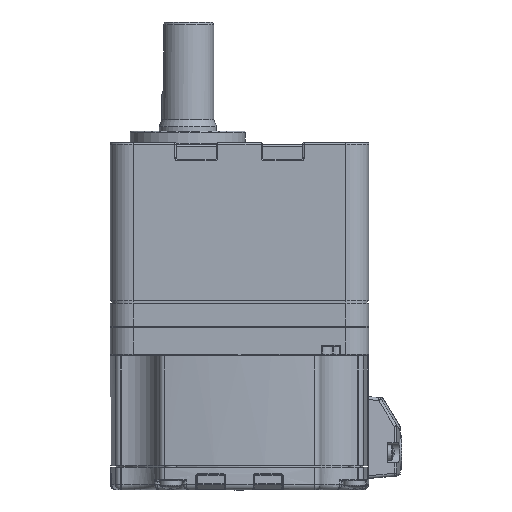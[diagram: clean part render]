
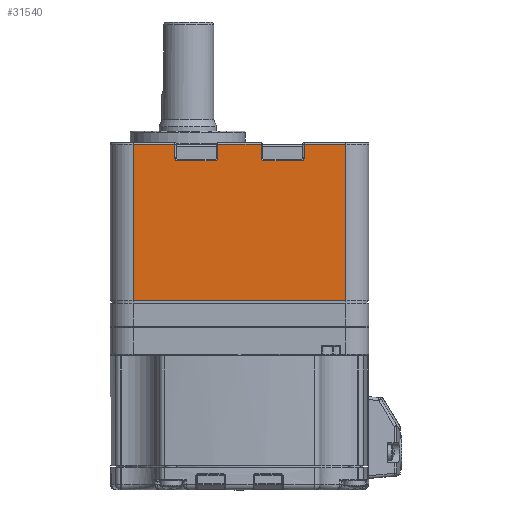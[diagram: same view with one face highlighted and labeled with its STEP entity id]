
A CAD part, left-side view. The second image highlights one B-rep face of the part: STEP entity #31540.
In plain terms, the highlighted planar face has unit normal (-1, 0, 0).
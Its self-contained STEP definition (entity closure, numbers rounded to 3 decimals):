
#27734=CARTESIAN_POINT('',(16.389,98.667,222.063));
#27735=VERTEX_POINT('',#27734);
#27745=CARTESIAN_POINT('',(16.389,98.667,167.563));
#27746=VERTEX_POINT('',#27745);
#27747=CARTESIAN_POINT('',(16.389,98.667,222.063));
#27748=DIRECTION('',(0.0,0.0,-1.0));
#27749=VECTOR('',#27748,54.5);
#27750=LINE('',#27747,#27749);
#27751=EDGE_CURVE('',#27735,#27746,#27750,.T.);
#27778=CARTESIAN_POINT('',(16.389,172.667,167.563));
#27779=VERTEX_POINT('',#27778);
#27818=CARTESIAN_POINT('',(16.389,172.667,167.563));
#27819=DIRECTION('',(0.0,-1.0,0.0));
#27820=VECTOR('',#27819,74.);
#27821=LINE('',#27818,#27820);
#27822=EDGE_CURVE('',#27779,#27746,#27821,.T.);
#27844=CARTESIAN_POINT('',(16.389,172.667,222.063));
#27845=VERTEX_POINT('',#27844);
#27860=CARTESIAN_POINT('',(16.389,172.667,167.563));
#27861=DIRECTION('',(0.0,0.0,1.0));
#27862=VECTOR('',#27861,54.5);
#27863=LINE('',#27860,#27862);
#27864=EDGE_CURVE('',#27779,#27845,#27863,.T.);
#29208=CARTESIAN_POINT('',(16.389,158.167,222.063));
#29209=VERTEX_POINT('',#29208);
#29219=CARTESIAN_POINT('',(16.389,158.167,217.263));
#29220=VERTEX_POINT('',#29219);
#29221=CARTESIAN_POINT('',(16.389,158.167,222.063));
#29222=DIRECTION('',(0.0,0.0,-1.0));
#29223=VECTOR('',#29222,4.8);
#29224=LINE('',#29221,#29223);
#29225=EDGE_CURVE('',#29209,#29220,#29224,.T.);
#29249=CARTESIAN_POINT('',(16.389,157.167,216.263));
#29250=VERTEX_POINT('',#29249);
#29251=CARTESIAN_POINT('',(16.389,157.167,217.263));
#29252=DIRECTION('',(-1.0,0.,0.));
#29253=DIRECTION('',(0.,0.707,-0.707));
#29254=AXIS2_PLACEMENT_3D('',#29251,#29252,#29253);
#29255=CIRCLE('',#29254,1.0);
#29256=EDGE_CURVE('',#29220,#29250,#29255,.T.);
#29275=CARTESIAN_POINT('',(16.389,144.167,216.263));
#29276=VERTEX_POINT('',#29275);
#29277=CARTESIAN_POINT('',(16.389,157.167,216.263));
#29278=DIRECTION('',(0.0,-1.0,0.0));
#29279=VECTOR('',#29278,13.0);
#29280=LINE('',#29277,#29279);
#29281=EDGE_CURVE('',#29250,#29276,#29280,.T.);
#29300=CARTESIAN_POINT('',(16.389,143.167,217.263));
#29301=VERTEX_POINT('',#29300);
#29302=CARTESIAN_POINT('',(16.389,144.167,217.263));
#29303=DIRECTION('',(-1.0,0.,0.));
#29304=DIRECTION('',(0.,-0.707,-0.707));
#29305=AXIS2_PLACEMENT_3D('',#29302,#29303,#29304);
#29306=CIRCLE('',#29305,1.0);
#29307=EDGE_CURVE('',#29276,#29301,#29306,.T.);
#29325=CARTESIAN_POINT('',(16.389,143.167,222.063));
#29326=VERTEX_POINT('',#29325);
#29336=CARTESIAN_POINT('',(16.389,143.167,217.263));
#29337=DIRECTION('',(0.0,0.0,1.0));
#29338=VECTOR('',#29337,4.8);
#29339=LINE('',#29336,#29338);
#29340=EDGE_CURVE('',#29301,#29326,#29339,.T.);
#30579=CARTESIAN_POINT('',(16.389,128.167,222.063));
#30580=VERTEX_POINT('',#30579);
#30590=CARTESIAN_POINT('',(16.389,128.167,217.263));
#30591=VERTEX_POINT('',#30590);
#30592=CARTESIAN_POINT('',(16.389,128.167,222.063));
#30593=DIRECTION('',(0.0,0.0,-1.0));
#30594=VECTOR('',#30593,4.8);
#30595=LINE('',#30592,#30594);
#30596=EDGE_CURVE('',#30580,#30591,#30595,.T.);
#30620=CARTESIAN_POINT('',(16.389,127.167,216.263));
#30621=VERTEX_POINT('',#30620);
#30622=CARTESIAN_POINT('',(16.389,127.167,217.263));
#30623=DIRECTION('',(-1.0,0.,0.));
#30624=DIRECTION('',(0.,0.707,-0.707));
#30625=AXIS2_PLACEMENT_3D('',#30622,#30623,#30624);
#30626=CIRCLE('',#30625,1.0);
#30627=EDGE_CURVE('',#30591,#30621,#30626,.T.);
#30646=CARTESIAN_POINT('',(16.389,114.167,216.263));
#30647=VERTEX_POINT('',#30646);
#30648=CARTESIAN_POINT('',(16.389,127.167,216.263));
#30649=DIRECTION('',(0.0,-1.0,0.0));
#30650=VECTOR('',#30649,13.);
#30651=LINE('',#30648,#30650);
#30652=EDGE_CURVE('',#30621,#30647,#30651,.T.);
#30671=CARTESIAN_POINT('',(16.389,113.167,217.263));
#30672=VERTEX_POINT('',#30671);
#30673=CARTESIAN_POINT('',(16.389,114.167,217.263));
#30674=DIRECTION('',(-1.0,0.,0.));
#30675=DIRECTION('',(0.,-0.707,-0.707));
#30676=AXIS2_PLACEMENT_3D('',#30673,#30674,#30675);
#30677=CIRCLE('',#30676,1.0);
#30678=EDGE_CURVE('',#30647,#30672,#30677,.T.);
#31070=CARTESIAN_POINT('',(16.389,172.667,222.063));
#31071=DIRECTION('',(0.0,-1.0,0.0));
#31072=VECTOR('',#31071,14.5);
#31073=LINE('',#31070,#31072);
#31074=EDGE_CURVE('',#27845,#29209,#31073,.T.);
#31380=CARTESIAN_POINT('',(16.389,143.167,222.063));
#31381=DIRECTION('',(0.0,-1.0,0.0));
#31382=VECTOR('',#31381,15.0);
#31383=LINE('',#31380,#31382);
#31384=EDGE_CURVE('',#29326,#30580,#31383,.T.);
#31492=CARTESIAN_POINT('',(16.389,113.167,222.063));
#31493=VERTEX_POINT('',#31492);
#31503=CARTESIAN_POINT('',(16.389,113.167,217.263));
#31504=DIRECTION('',(0.0,0.0,1.0));
#31505=VECTOR('',#31504,4.8);
#31506=LINE('',#31503,#31505);
#31507=EDGE_CURVE('',#30672,#31493,#31506,.T.);
#31512=CARTESIAN_POINT('',(16.389,180.667,222.563));
#31513=DIRECTION('',(-1.0,0.0,0.0));
#31514=DIRECTION('',(0.0,0.0,-1.0));
#31515=AXIS2_PLACEMENT_3D('',#31512,#31513,#31514);
#31516=PLANE('',#31515);
#31517=CARTESIAN_POINT('',(16.389,113.167,222.063));
#31518=DIRECTION('',(0.0,-1.0,0.0));
#31519=VECTOR('',#31518,14.5);
#31520=LINE('',#31517,#31519);
#31521=EDGE_CURVE('',#31493,#27735,#31520,.T.);
#31522=ORIENTED_EDGE('',*,*,#31521,.F.);
#31523=ORIENTED_EDGE('',*,*,#31507,.F.);
#31524=ORIENTED_EDGE('',*,*,#30678,.F.);
#31525=ORIENTED_EDGE('',*,*,#30652,.F.);
#31526=ORIENTED_EDGE('',*,*,#30627,.F.);
#31527=ORIENTED_EDGE('',*,*,#30596,.F.);
#31528=ORIENTED_EDGE('',*,*,#31384,.F.);
#31529=ORIENTED_EDGE('',*,*,#29340,.F.);
#31530=ORIENTED_EDGE('',*,*,#29307,.F.);
#31531=ORIENTED_EDGE('',*,*,#29281,.F.);
#31532=ORIENTED_EDGE('',*,*,#29256,.F.);
#31533=ORIENTED_EDGE('',*,*,#29225,.F.);
#31534=ORIENTED_EDGE('',*,*,#31074,.F.);
#31535=ORIENTED_EDGE('',*,*,#27864,.F.);
#31536=ORIENTED_EDGE('',*,*,#27822,.T.);
#31537=ORIENTED_EDGE('',*,*,#27751,.F.);
#31538=EDGE_LOOP('',(#31522,#31523,#31524,#31525,#31526,#31527,#31528,#31529,#31530,#31531,#31532,#31533,#31534,#31535,#31536,#31537));
#31539=FACE_OUTER_BOUND('',#31538,.T.);
#31540=ADVANCED_FACE('',(#31539),#31516,.T.);
